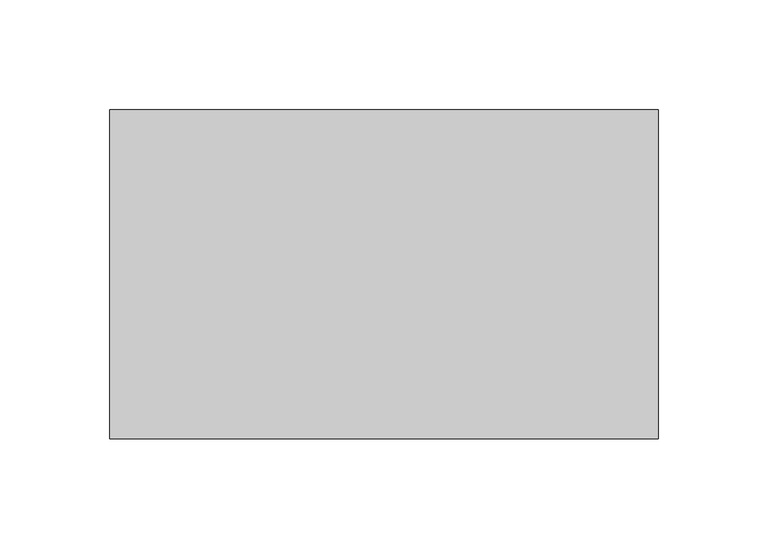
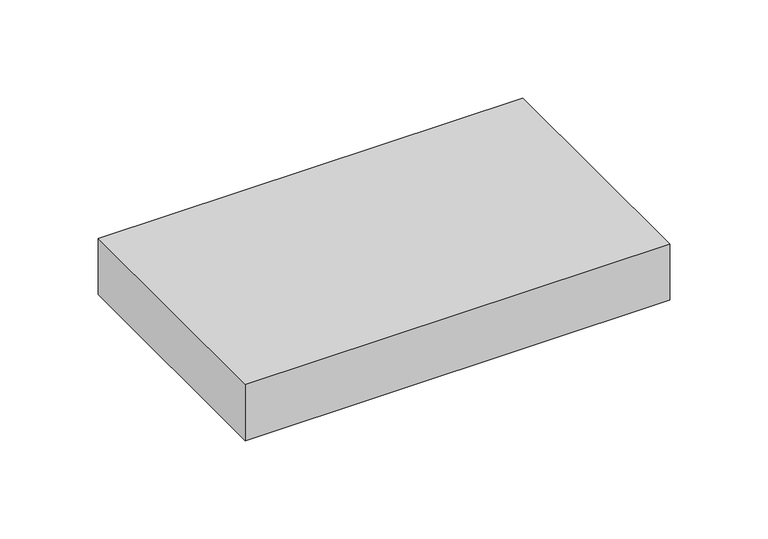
"""IFC4 building model written with IfcOpenShell, lengths in millimetres: furniture geometry, Pixel_Multiple : Pixel_Multiple."""

from ifc_helpers import new_model, si_unit, origin, origin_with_axes, place, context, project, spatial, polyline, outline, extrude, source, transform, mapped, element, save


def furniture_cc517636(model_context):
    return source(origin(), model_context, "Body", "SweptSolid", [
        extrude(outline(polyline([(250.0, 0.0), (0.0, 0.0), (0.0, 150.0), (250.0, 150.0), (250.0, 0.0)])), origin_with_axes(), (0.0, 0.0, 1.0), 35.0),
    ])


if __name__ == "__main__":
    model = new_model("IFC4")
    model_context = context("Model", 3, world=origin())
    ifc_project = project(units=[si_unit("LENGTHUNIT", "METRE", prefix="MILLI")], contexts=[model_context])
    site = spatial("IfcSite", under=ifc_project)
    building = spatial("IfcBuilding", under=site)
    placement = place(None, origin())
    furniture_shape = furniture_cc517636(model_context)
    element("IfcFurniture", 1, ObjectType="Pixel_Multiple : Pixel_Multiple", at=placement, inside=building, context=model_context, shape_type="MappedRepresentation", body=[
        mapped(furniture_shape, transform((0.0, 0.0, 0.0), x_axis=(1.0, 0.0, 0.0), y_axis=(0.0, 1.0, 0.0), z_axis=(0.0, 0.0, 1.0))),
    ])
    save(model, "model.ifc")
